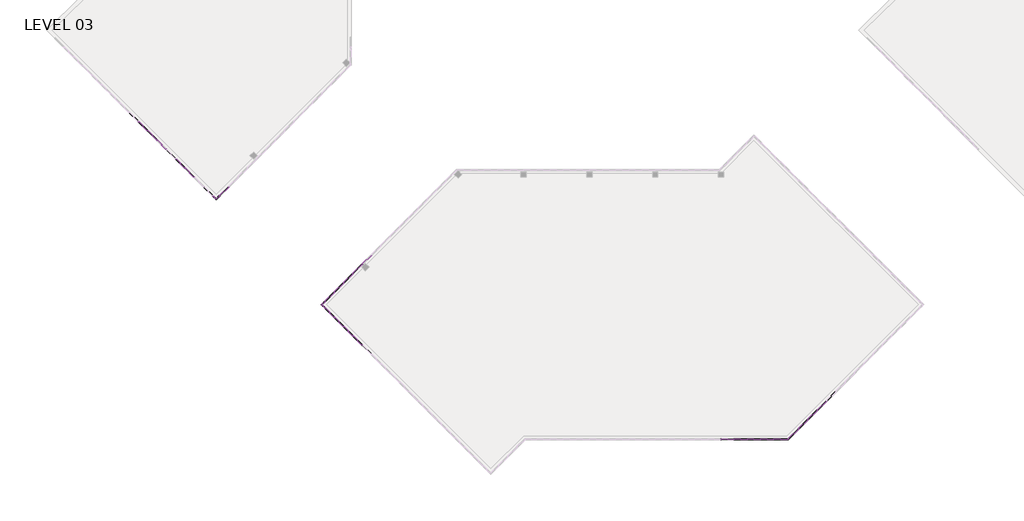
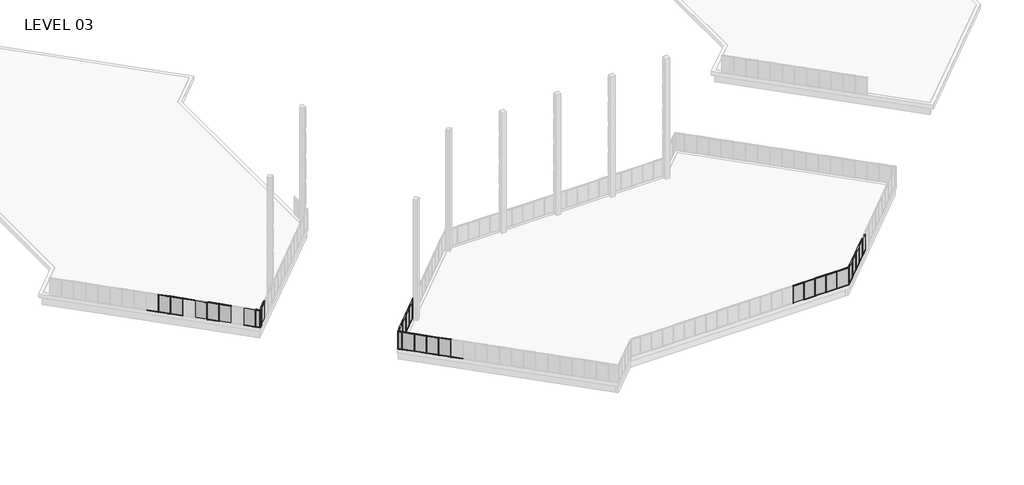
# One storey, part 2 of 18: 86 members, 29 plates.
"""IFC4 building model written with IfcOpenShell, lengths in millimetres."""

from ifc_helpers import new_model, si_unit, origin, place, context, project, spatial, transform, mapped, element, save
from components import member_5247f267, member_e44af9ab, member_800970d4, member_1bd862b2, member_7ca0f77f, member_25b26a38, member_ed9c17d6, plate_67294edd, plate_bbcbcabf, plate_3fb62afd, plate_6d527a83, plate_e0fd5134, plate_62af1d3c, plate_048e4634

model = new_model("IFC4")

# Units and contexts
model_context = context("Model", 3, world=origin())
ifc_project = project(units=[si_unit("LENGTHUNIT", "METRE", prefix="MILLI")], contexts=[model_context])

# Site, building, storey
site = spatial("IfcSite", under=ifc_project)
building = spatial("IfcBuilding", under=site)
storey = spatial("IfcBuildingStorey", under=building, Name="LEVEL 03", Elevation=8280.4)

# Members
placement = place(None, origin())
member_shape = member_5247f267(model_context)
element("IfcMember", 1, ObjectType="Rectangular Mullion : 2\" x 4.5\" rectangular", at=placement, inside=storey, context=model_context, shape_type="MappedRepresentation", body=[
    mapped(member_shape, transform((-1378.4693146, 14091.4196932, 8280.4), x_axis=(0.0, 0.0, -1.0), y_axis=(-0.7071067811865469, 0.7071067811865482, 0.0), z_axis=(0.7071067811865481, 0.7071067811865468, 0.0))),
])
element("IfcMember", 2, ObjectType="Rectangular Mullion : 2\" x 4.5\" rectangular", at=placement, inside=storey, context=model_context, shape_type="MappedRepresentation", body=[
    mapped(member_shape, transform((-2420.1790246, 7938.4057611, 8280.4), x_axis=(0.0, 0.0, -1.0), y_axis=(-0.707106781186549, -0.707106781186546, 0.0), z_axis=(-0.7071067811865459, 0.7071067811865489, 0.0))),
])
element("IfcMember", 3, ObjectType="Rectangular Mullion : 2\" x 4.5\" rectangular", at=placement, inside=storey, context=model_context, shape_type="MappedRepresentation", body=[
    mapped(member_shape, transform((-1342.5482901, 6860.7750266, 8280.4), x_axis=(0.0, 0.0, -1.0), y_axis=(-0.7071067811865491, -0.707106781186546, 0.0), z_axis=(-0.7071067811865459, 0.707106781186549, 0.0))),
])
element("IfcMember", 4, ObjectType="Rectangular Mullion : 2\" x 4.5\" rectangular", at=placement, inside=storey, context=model_context, shape_type="MappedRepresentation", body=[
    mapped(member_shape, transform((44329.35, -5092.0171279, 8280.4), x_axis=(0.0, 0.0, -1.0), y_axis=(0.0, -1.0, 0.0), z_axis=(-1.0, 0.0, 0.0))),
])
element("IfcMember", 5, ObjectType="Rectangular Mullion : 2\" x 4.5\" rectangular", at=placement, inside=storey, context=model_context, shape_type="MappedRepresentation", body=[
    mapped(member_shape, transform((45853.35, -5092.0171279, 8280.4), x_axis=(0.0, 0.0, -1.0), y_axis=(0.0, -1.0, 0.0), z_axis=(-1.0, 0.0, 0.0))),
])
element("IfcMember", 6, ObjectType="Rectangular Mullion : 2\" x 4.5\" rectangular", at=placement, inside=storey, context=model_context, shape_type="MappedRepresentation", body=[
    mapped(member_shape, transform((50254.2406419, -3879.4326216, 8280.4), x_axis=(0.0, 0.0, -1.0), y_axis=(0.707106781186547, -0.7071067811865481, 0.0), z_axis=(-0.7071067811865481, -0.707106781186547, 0.0))),
])
element("IfcMember", 7, ObjectType="Rectangular Mullion : 2\" x 4.5\" rectangular", at=placement, inside=storey, context=model_context, shape_type="MappedRepresentation", body=[
    mapped(member_shape, transform((51331.8713765, -2801.801887, 8280.4), x_axis=(0.0, 0.0, -1.0), y_axis=(0.7071067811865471, -0.7071067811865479, 0.0), z_axis=(-0.7071067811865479, -0.7071067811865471, 0.0))),
])
element("IfcMember", 8, ObjectType="Rectangular Mullion : 2\" x 4.5\" rectangular", at=placement, inside=storey, context=model_context, shape_type="MappedRepresentation", body=[
    mapped(member_shape, transform((52409.502111, -1724.1711525, 8280.4), x_axis=(0.0, 0.0, -1.0), y_axis=(0.7071067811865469, -0.7071067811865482, 0.0), z_axis=(-0.7071067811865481, -0.7071067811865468, 0.0))),
])
element("IfcMember", 9, ObjectType="Rectangular Mullion : 2\" x 4.5\" rectangular", at=placement, inside=storey, context=model_context, shape_type="MappedRepresentation", body=[
    mapped(member_shape, transform((53487.1328455, -646.540418, 8280.4), x_axis=(0.0, 0.0, -1.0), y_axis=(0.707106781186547, -0.7071067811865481, 0.0), z_axis=(-0.707106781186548, -0.7071067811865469, 0.0))),
])
element("IfcMember", 10, ObjectType="Rectangular Mullion : 2\" x 4.5\" rectangular", at=placement, inside=storey, context=model_context, shape_type="MappedRepresentation", body=[
    mapped(member_shape, transform((42805.35, -5092.0171279, 8280.4), x_axis=(0.0, 0.0, -1.0), y_axis=(0.0, -1.0, 0.0), z_axis=(-1.0, 0.0, 0.0))),
])
element("IfcMember", 11, ObjectType="Rectangular Mullion : 2\" x 4.5\" rectangular", at=placement, inside=storey, context=model_context, shape_type="MappedRepresentation", body=[
    mapped(member_shape, transform((-300.8459809, 15169.0430268, 8280.4), x_axis=(0.0, 0.0, -1.0), y_axis=(-0.7071067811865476, 0.7071067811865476, 0.0), z_axis=(0.7071067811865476, 0.7071067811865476, 0.0))),
])
element("IfcMember", 12, ObjectType="Rectangular Mullion : 2\" x 4.5\" rectangular", at=placement, inside=storey, context=model_context, shape_type="MappedRepresentation", body=[
    mapped(member_shape, transform((-2456.1000491, 13013.7889586, 8280.4), x_axis=(0.0, 0.0, -1.0), y_axis=(-0.7071067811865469, 0.7071067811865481, 0.0), z_axis=(0.7071067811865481, 0.7071067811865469, 0.0))),
])
element("IfcMember", 13, ObjectType="Rectangular Mullion : 2\" x 4.5\" rectangular", at=placement, inside=storey, context=model_context, shape_type="MappedRepresentation", body=[
    mapped(member_shape, transform((-3533.7307836, 11936.1582241, 8280.4), x_axis=(0.0, 0.0, -1.0), y_axis=(-0.7071067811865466, 0.7071067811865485, 0.0), z_axis=(0.7071067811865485, 0.7071067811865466, 0.0))),
])
element("IfcMember", 14, ObjectType="Rectangular Mullion : 2\" x 4.5\" rectangular", at=placement, inside=storey, context=model_context, shape_type="MappedRepresentation", body=[
    mapped(member_shape, transform((-3497.8097592, 9016.0364956, 8280.4), x_axis=(0.0, 0.0, -1.0), y_axis=(-0.707106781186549, -0.7071067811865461, 0.0), z_axis=(-0.7071067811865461, 0.707106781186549, 0.0))),
])
element("IfcMember", 15, ObjectType="Rectangular Mullion : 2\" x 4.5\" rectangular", at=placement, inside=storey, context=model_context, shape_type="MappedRepresentation", body=[
    mapped(member_shape, transform((-4575.4404937, 10093.6672302, 8280.4), x_axis=(0.0, 0.0, -1.0), y_axis=(-0.7071067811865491, -0.707106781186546, 0.0), z_axis=(-0.707106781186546, 0.7071067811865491, 0.0))),
])
element("IfcMember", 16, ObjectType="Rectangular Mullion : 2\" x 4.5\" rectangular", at=placement, inside=storey, context=model_context, shape_type="MappedRepresentation", body=[
    mapped(member_shape, transform((-264.9354228, 5783.1621593, 8280.4), x_axis=(0.0, 0.0, -1.0), y_axis=(-0.7071067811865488, -0.7071067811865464, 0.0), z_axis=(-0.7071067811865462, 0.7071067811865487, 0.0))),
])
element("IfcMember", 17, ObjectType="Rectangular Mullion : 2\" x 4.5\" rectangular", at=placement, inside=storey, context=model_context, shape_type="MappedRepresentation", body=[
    mapped(member_shape, transform((-1342.5482901, 14127.3407176, 10871.2), x_axis=(0.0, 0.0, 1.0), y_axis=(-0.707106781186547, 0.7071067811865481, 0.0), z_axis=(-0.707106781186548, -0.7071067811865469, 0.0))),
])
element("IfcMember", 18, ObjectType="Rectangular Mullion : 2\" x 4.5\" rectangular", at=placement, inside=storey, context=model_context, shape_type="MappedRepresentation", body=[
    mapped(member_shape, transform((-2456.1000491, 7974.3267856, 10871.2), x_axis=(0.0, 0.0, 1.0), y_axis=(-0.7071067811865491, -0.7071067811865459, 0.0), z_axis=(0.7071067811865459, -0.7071067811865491, 0.0))),
])
element("IfcMember", 19, ObjectType="Rectangular Mullion : 2\" x 4.5\" rectangular", at=placement, inside=storey, context=model_context, shape_type="MappedRepresentation", body=[
    mapped(member_shape, transform((-1378.4693146, 6896.6960511, 10871.2), x_axis=(0.0, 0.0, 1.0), y_axis=(-0.7071067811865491, -0.7071067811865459, 0.0), z_axis=(0.7071067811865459, -0.7071067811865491, 0.0))),
])
element("IfcMember", 20, ObjectType="Rectangular Mullion : 2\" x 4.5\" rectangular", at=placement, inside=storey, context=model_context, shape_type="MappedRepresentation", body=[
    mapped(member_shape, transform((44278.55, -5092.0171279, 10871.2), x_axis=(0.0, 0.0, 1.0), y_axis=(0.0, -1.0, 0.0), z_axis=(1.0, 0.0, 0.0))),
])
element("IfcMember", 21, ObjectType="Rectangular Mullion : 2\" x 4.5\" rectangular", at=placement, inside=storey, context=model_context, shape_type="MappedRepresentation", body=[
    mapped(member_shape, transform((45802.55, -5092.0171279, 10871.2), x_axis=(0.0, 0.0, 1.0), y_axis=(0.0, -1.0, 0.0), z_axis=(1.0, 0.0, 0.0))),
])
element("IfcMember", 22, ObjectType="Rectangular Mullion : 2\" x 4.5\" rectangular", at=placement, inside=storey, context=model_context, shape_type="MappedRepresentation", body=[
    mapped(member_shape, transform((51295.950352, -2837.7229115, 10871.2), x_axis=(0.0, 0.0, 1.0), y_axis=(0.7071067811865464, -0.7071067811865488, 0.0), z_axis=(0.7071067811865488, 0.7071067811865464, 0.0))),
])
element("IfcMember", 23, ObjectType="Rectangular Mullion : 2\" x 4.5\" rectangular", at=placement, inside=storey, context=model_context, shape_type="MappedRepresentation", body=[
    mapped(member_shape, transform((52373.5810865, -1760.092177, 10871.2), x_axis=(0.0, 0.0, 1.0), y_axis=(0.7071067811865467, -0.7071067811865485, 0.0), z_axis=(0.7071067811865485, 0.7071067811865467, 0.0))),
])
element("IfcMember", 24, ObjectType="Rectangular Mullion : 2\" x 4.5\" rectangular", at=placement, inside=storey, context=model_context, shape_type="MappedRepresentation", body=[
    mapped(member_shape, transform((53451.211821, -682.4614425, 10871.2), x_axis=(0.0, 0.0, 1.0), y_axis=(0.7071067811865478, -0.7071067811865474, 0.0), z_axis=(0.7071067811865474, 0.7071067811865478, 0.0))),
])
element("IfcMember", 25, ObjectType="Rectangular Mullion : 2\" x 4.5\" rectangular", at=placement, inside=storey, context=model_context, shape_type="MappedRepresentation", body=[
    mapped(member_shape, transform((42754.55, -5092.0171279, 10871.2), x_axis=(0.0, 0.0, 1.0), y_axis=(0.0, -1.0, 0.0), z_axis=(1.0, 0.0, 0.0))),
])
element("IfcMember", 26, ObjectType="Rectangular Mullion : 2\" x 4.5\" rectangular", at=placement, inside=storey, context=model_context, shape_type="MappedRepresentation", body=[
    mapped(member_shape, transform((47326.55, -5092.0171279, 10871.2), x_axis=(0.0, 0.0, 1.0), y_axis=(0.0, -1.0, 0.0), z_axis=(1.0, 0.0, 0.0))),
])
element("IfcMember", 27, ObjectType="Rectangular Mullion : 2\" x 4.5\" rectangular", at=placement, inside=storey, context=model_context, shape_type="MappedRepresentation", body=[
    mapped(member_shape, transform((-264.9249564, 15204.9640513, 10871.2), x_axis=(0.0, 0.0, 1.0), y_axis=(-0.7071067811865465, 0.7071067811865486, 0.0), z_axis=(-0.7071067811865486, -0.7071067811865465, 0.0))),
])
element("IfcMember", 28, ObjectType="Rectangular Mullion : 2\" x 4.5\" rectangular", at=placement, inside=storey, context=model_context, shape_type="MappedRepresentation", body=[
    mapped(member_shape, transform((-2420.1790246, 13049.7099831, 10871.2), x_axis=(0.0, 0.0, 1.0), y_axis=(-0.7071067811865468, 0.7071067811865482, 0.0), z_axis=(-0.7071067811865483, -0.7071067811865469, 0.0))),
])
element("IfcMember", 29, ObjectType="Rectangular Mullion : 2\" x 4.5\" rectangular", at=placement, inside=storey, context=model_context, shape_type="MappedRepresentation", body=[
    mapped(member_shape, transform((-3497.8097592, 11972.0792486, 10871.2), x_axis=(0.0, 0.0, 1.0), y_axis=(-0.7071067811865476, 0.7071067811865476, 0.0), z_axis=(-0.7071067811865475, -0.7071067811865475, 0.0))),
])
element("IfcMember", 30, ObjectType="Rectangular Mullion : 2\" x 4.5\" rectangular", at=placement, inside=storey, context=model_context, shape_type="MappedRepresentation", body=[
    mapped(member_shape, transform((-4575.4404937, 10894.4485141, 10871.2), x_axis=(0.0, 0.0, 1.0), y_axis=(-0.7071067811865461, 0.7071067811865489, 0.0), z_axis=(-0.7071067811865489, -0.7071067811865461, 0.0))),
])
element("IfcMember", 31, ObjectType="Rectangular Mullion : 2\" x 4.5\" rectangular", at=placement, inside=storey, context=model_context, shape_type="MappedRepresentation", body=[
    mapped(member_shape, transform((-3533.7307836, 9051.9575201, 10871.2), x_axis=(0.0, 0.0, 1.0), y_axis=(-0.7071067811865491, -0.7071067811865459, 0.0), z_axis=(0.7071067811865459, -0.7071067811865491, 0.0))),
])
element("IfcMember", 32, ObjectType="Rectangular Mullion : 2\" x 4.5\" rectangular", at=placement, inside=storey, context=model_context, shape_type="MappedRepresentation", body=[
    mapped(member_shape, transform((-300.8564473, 5819.0831838, 10871.2), x_axis=(0.0, 0.0, 1.0), y_axis=(-0.7071067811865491, -0.707106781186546, 0.0), z_axis=(0.7071067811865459, -0.707106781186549, 0.0))),
])
member_2_shape = member_e44af9ab(model_context)
element("IfcMember", 33, ObjectType="Rectangular Mullion : 2\" x 4.5\" rectangular", at=placement, inside=storey, context=model_context, shape_type="MappedRepresentation", body=[
    mapped(member_2_shape, transform((-1360.5088023, 14109.3802054, 8280.4), x_axis=(-0.7071067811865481, -0.7071067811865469, 0.0), y_axis=(-0.7071067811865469, 0.7071067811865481, 0.0), z_axis=(0.0, 0.0, -1.0))),
])
element("IfcMember", 34, ObjectType="Rectangular Mullion : 2\" x 4.5\" rectangular", at=placement, inside=storey, context=model_context, shape_type="MappedRepresentation", body=[
    mapped(member_2_shape, transform((-2438.1395369, 7956.3662734, 8280.4), x_axis=(0.7071067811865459, -0.7071067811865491, 0.0), y_axis=(-0.7071067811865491, -0.7071067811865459, 0.0), z_axis=(0.0, 0.0, -1.0))),
])
element("IfcMember", 35, ObjectType="Rectangular Mullion : 2\" x 4.5\" rectangular", at=placement, inside=storey, context=model_context, shape_type="MappedRepresentation", body=[
    mapped(member_2_shape, transform((-1360.5088023, 6878.7355388, 8280.4), x_axis=(0.7071067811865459, -0.7071067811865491, 0.0), y_axis=(-0.7071067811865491, -0.7071067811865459, 0.0), z_axis=(0.0, 0.0, -1.0))),
])
element("IfcMember", 36, ObjectType="Rectangular Mullion : 2\" x 4.5\" rectangular", at=placement, inside=storey, context=model_context, shape_type="MappedRepresentation", body=[
    mapped(member_2_shape, transform((44303.95, -5092.0171279, 8280.4), x_axis=(1.0, 0.0, 0.0), y_axis=(0.0, -1.0, 0.0), z_axis=(0.0, 0.0, -1.0))),
])
element("IfcMember", 37, ObjectType="Rectangular Mullion : 2\" x 4.5\" rectangular", at=placement, inside=storey, context=model_context, shape_type="MappedRepresentation", body=[
    mapped(member_2_shape, transform((45827.95, -5092.0171279, 8280.4), x_axis=(1.0, 0.0, 0.0), y_axis=(0.0, -1.0, 0.0), z_axis=(0.0, 0.0, -1.0))),
])
element("IfcMember", 38, ObjectType="Rectangular Mullion : 2\" x 4.5\" rectangular", at=placement, inside=storey, context=model_context, shape_type="MappedRepresentation", body=[
    mapped(member_2_shape, transform((50236.2801297, -3897.3931338, 8280.4), x_axis=(0.7071067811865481, 0.7071067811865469, 0.0), y_axis=(0.7071067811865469, -0.7071067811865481, 0.0), z_axis=(0.0, 0.0, -1.0))),
])
element("IfcMember", 39, ObjectType="Rectangular Mullion : 2\" x 4.5\" rectangular", at=placement, inside=storey, context=model_context, shape_type="MappedRepresentation", body=[
    mapped(member_2_shape, transform((51313.9108642, -2819.7623993, 8280.4), x_axis=(0.7071067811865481, 0.7071067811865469, 0.0), y_axis=(0.7071067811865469, -0.7071067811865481, 0.0), z_axis=(0.0, 0.0, -1.0))),
])
element("IfcMember", 40, ObjectType="Rectangular Mullion : 2\" x 4.5\" rectangular", at=placement, inside=storey, context=model_context, shape_type="MappedRepresentation", body=[
    mapped(member_2_shape, transform((52391.5415988, -1742.1316648, 8280.4), x_axis=(0.7071067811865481, 0.7071067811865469, 0.0), y_axis=(0.7071067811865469, -0.7071067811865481, 0.0), z_axis=(0.0, 0.0, -1.0))),
])
element("IfcMember", 41, ObjectType="Rectangular Mullion : 2\" x 4.5\" rectangular", at=placement, inside=storey, context=model_context, shape_type="MappedRepresentation", body=[
    mapped(member_2_shape, transform((53469.1723333, -664.5009302, 8280.4), x_axis=(0.7071067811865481, 0.7071067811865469, 0.0), y_axis=(0.7071067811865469, -0.7071067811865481, 0.0), z_axis=(0.0, 0.0, -1.0))),
])
element("IfcMember", 42, ObjectType="Rectangular Mullion : 2\" x 4.5\" rectangular", at=placement, inside=storey, context=model_context, shape_type="MappedRepresentation", body=[
    mapped(member_2_shape, transform((41255.95, -5092.0171279, 8280.4), x_axis=(1.0, 0.0, 0.0), y_axis=(0.0, -1.0, 0.0), z_axis=(0.0, 0.0, -1.0))),
])
element("IfcMember", 43, ObjectType="Rectangular Mullion : 2\" x 4.5\" rectangular", at=placement, inside=storey, context=model_context, shape_type="MappedRepresentation", body=[
    mapped(member_2_shape, transform((42779.95, -5092.0171279, 8280.4), x_axis=(1.0, 0.0, 0.0), y_axis=(0.0, -1.0, 0.0), z_axis=(0.0, 0.0, -1.0))),
])
element("IfcMember", 44, ObjectType="Rectangular Mullion : 2\" x 4.5\" rectangular", at=placement, inside=storey, context=model_context, shape_type="MappedRepresentation", body=[
    mapped(member_2_shape, transform((47351.95, -5092.0171279, 8280.4), x_axis=(1.0, 0.0, 0.0), y_axis=(0.0, -1.0, 0.0), z_axis=(0.0, 0.0, -1.0))),
])
element("IfcMember", 45, ObjectType="Rectangular Mullion : 2\" x 4.5\" rectangular", at=placement, inside=storey, context=model_context, shape_type="MappedRepresentation", body=[
    mapped(member_2_shape, transform((-282.8854687, 15187.0035391, 8280.4), x_axis=(-0.7071067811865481, -0.7071067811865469, 0.0), y_axis=(-0.7071067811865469, 0.7071067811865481, 0.0), z_axis=(0.0, 0.0, -1.0))),
])
element("IfcMember", 46, ObjectType="Rectangular Mullion : 2\" x 4.5\" rectangular", at=placement, inside=storey, context=model_context, shape_type="MappedRepresentation", body=[
    mapped(member_2_shape, transform((-2438.1395369, 13031.7494709, 8280.4), x_axis=(-0.7071067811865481, -0.7071067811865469, 0.0), y_axis=(-0.7071067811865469, 0.7071067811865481, 0.0), z_axis=(0.0, 0.0, -1.0))),
])
element("IfcMember", 47, ObjectType="Rectangular Mullion : 2\" x 4.5\" rectangular", at=placement, inside=storey, context=model_context, shape_type="MappedRepresentation", body=[
    mapped(member_2_shape, transform((-3515.7702714, 11954.1187363, 8280.4), x_axis=(-0.7071067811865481, -0.7071067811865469, 0.0), y_axis=(-0.7071067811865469, 0.7071067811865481, 0.0), z_axis=(0.0, 0.0, -1.0))),
])
element("IfcMember", 48, ObjectType="Rectangular Mullion : 2\" x 4.5\" rectangular", at=placement, inside=storey, context=model_context, shape_type="MappedRepresentation", body=[
    mapped(member_2_shape, transform((-4593.4010059, 10876.4880018, 8280.4), x_axis=(-0.7071067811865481, -0.7071067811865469, 0.0), y_axis=(-0.7071067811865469, 0.7071067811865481, 0.0), z_axis=(0.0, 0.0, -1.0))),
])
element("IfcMember", 49, ObjectType="Rectangular Mullion : 2\" x 4.5\" rectangular", at=placement, inside=storey, context=model_context, shape_type="MappedRepresentation", body=[
    mapped(member_2_shape, transform((-3515.7702714, 9033.9970079, 8280.4), x_axis=(0.7071067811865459, -0.7071067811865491, 0.0), y_axis=(-0.7071067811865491, -0.7071067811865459, 0.0), z_axis=(0.0, 0.0, -1.0))),
])
element("IfcMember", 50, ObjectType="Rectangular Mullion : 2\" x 4.5\" rectangular", at=placement, inside=storey, context=model_context, shape_type="MappedRepresentation", body=[
    mapped(member_2_shape, transform((-4593.4010059, 10111.6277424, 8280.4), x_axis=(0.7071067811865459, -0.7071067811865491, 0.0), y_axis=(-0.7071067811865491, -0.7071067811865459, 0.0), z_axis=(0.0, 0.0, -1.0))),
])
element("IfcMember", 51, ObjectType="Rectangular Mullion : 2\" x 4.5\" rectangular", at=placement, inside=storey, context=model_context, shape_type="MappedRepresentation", body=[
    mapped(member_2_shape, transform((-282.8959351, 5801.1226716, 8280.4), x_axis=(0.7071067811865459, -0.7071067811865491, 0.0), y_axis=(-0.7071067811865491, -0.7071067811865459, 0.0), z_axis=(0.0, 0.0, -1.0))),
])
member_3_shape = member_800970d4(model_context)
element("IfcMember", 52, ObjectType="Rectangular Mullion : 2\" x 4.5\" rectangular", at=placement, inside=storey, context=model_context, shape_type="MappedRepresentation", body=[
    mapped(member_3_shape, transform((-4975.8311356, 10494.0578721, 8280.4), x_axis=(-0.7071067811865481, -0.7071067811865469, 0.0), y_axis=(-0.7071067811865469, 0.7071067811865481, 0.0), z_axis=(0.0, 0.0, -1.0))),
])
element("IfcMember", 53, ObjectType="Rectangular Mullion : 2\" x 4.5\" rectangular", at=placement, inside=storey, context=model_context, shape_type="MappedRepresentation", body=[
    mapped(member_3_shape, transform((49041.6561356, -5092.0171279, 8280.4), x_axis=(1.0, 0.0, 0.0), y_axis=(0.0, -1.0, 0.0), z_axis=(0.0, 0.0, -1.0))),
])
element("IfcMember", 54, ObjectType="Rectangular Mullion : 2\" x 4.5\" rectangular", at=placement, inside=storey, context=model_context, shape_type="MappedRepresentation", body=[
    mapped(member_3_shape, transform((-4975.8311356, 10494.0578721, 10871.2), x_axis=(-0.7071067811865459, 0.7071067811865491, 0.0), y_axis=(-0.7071067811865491, -0.7071067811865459, 0.0), z_axis=(0.0, 0.0, 1.0))),
])
element("IfcMember", 55, ObjectType="Rectangular Mullion : 2\" x 4.5\" rectangular", at=placement, inside=storey, context=model_context, shape_type="MappedRepresentation", body=[
    mapped(member_3_shape, transform((49041.6561356, -5092.0171279, 10871.2), x_axis=(-0.7071067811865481, -0.7071067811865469, 0.0), y_axis=(0.7071067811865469, -0.7071067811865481, 0.0), z_axis=(0.0, 0.0, 1.0))),
])
member_4_shape = member_1bd862b2(model_context)
element("IfcMember", 56, ObjectType="Rectangular Mullion : 2\" x 4.5\" rectangular", at=placement, inside=storey, context=model_context, shape_type="MappedRepresentation", body=[
    mapped(member_4_shape, transform((48990.8561356, -5092.0171279, 10871.2), x_axis=(0.0, 0.0, 1.0), y_axis=(0.0, -1.0, 0.0), z_axis=(1.0, 0.0, 0.0))),
])
element("IfcMember", 57, ObjectType="Rectangular Mullion : 2\" x 4.5\" rectangular", at=placement, inside=storey, context=model_context, shape_type="MappedRepresentation", body=[
    mapped(member_4_shape, transform((47377.35, -5092.0171279, 8280.4), x_axis=(0.0, 0.0, -1.0), y_axis=(0.0, -1.0, 0.0), z_axis=(-1.0, 0.0, 0.0))),
])
member_5_shape = member_7ca0f77f(model_context)
element("IfcMember", 58, ObjectType="Rectangular Mullion : 2\" x 4.5\" rectangular", at=placement, inside=storey, context=model_context, shape_type="MappedRepresentation", body=[
    mapped(member_5_shape, transform((50218.3196175, -3915.3536461, 10871.2), x_axis=(0.0, 0.0, 1.0), y_axis=(0.7071067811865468, -0.7071067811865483, 0.0), z_axis=(0.7071067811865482, 0.7071067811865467, 0.0))),
])
element("IfcMember", 59, ObjectType="Rectangular Mullion : 2\" x 4.5\" rectangular", at=placement, inside=storey, context=model_context, shape_type="MappedRepresentation", body=[
    mapped(member_5_shape, transform((49077.5771601, -5056.0961034, 8280.4), x_axis=(0.0, 0.0, -1.0), y_axis=(0.7071067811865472, -0.7071067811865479, 0.0), z_axis=(-0.7071067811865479, -0.7071067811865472, 0.0))),
])
member_6_shape = member_25b26a38(model_context)
element("IfcMember", 60, ObjectType="Rectangular Mullion : 2\" x 4.5\" rectangular", at=placement, inside=storey, context=model_context, shape_type="MappedRepresentation", body=[
    mapped(member_6_shape, transform((-4939.9101111, 10458.1368476, 8280.4), x_axis=(0.0, 0.0, -1.0), y_axis=(-0.7071067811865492, -0.7071067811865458, 0.0), z_axis=(-0.7071067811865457, 0.7071067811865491, 0.0))),
])
element("IfcMember", 61, ObjectType="Rectangular Mullion : 2\" x 4.5\" rectangular", at=placement, inside=storey, context=model_context, shape_type="MappedRepresentation", body=[
    mapped(member_6_shape, transform((-4611.3615182, 10858.5274896, 8280.4), x_axis=(0.0, 0.0, -1.0), y_axis=(-0.7071067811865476, 0.7071067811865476, 0.0), z_axis=(0.7071067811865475, 0.7071067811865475, 0.0))),
])
element("IfcMember", 62, ObjectType="Rectangular Mullion : 2\" x 4.5\" rectangular", at=placement, inside=storey, context=model_context, shape_type="MappedRepresentation", body=[
    mapped(member_6_shape, transform((-4939.9101111, 10529.9788966, 10871.2), x_axis=(0.0, 0.0, 1.0), y_axis=(-0.707106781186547, 0.707106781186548, 0.0), z_axis=(-0.707106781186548, -0.707106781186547, 0.0))),
])
element("IfcMember", 63, ObjectType="Rectangular Mullion : 2\" x 4.5\" rectangular", at=placement, inside=storey, context=model_context, shape_type="MappedRepresentation", body=[
    mapped(member_6_shape, transform((-4611.3615182, 10129.5882547, 10871.2), x_axis=(0.0, 0.0, 1.0), y_axis=(-0.707106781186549, -0.707106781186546, 0.0), z_axis=(0.707106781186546, -0.707106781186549, 0.0))),
])
element("IfcMember", 64, ObjectType="Rectangular Mullion : 2\" x 4.5\" rectangular", at=placement, inside=storey, context=model_context, shape_type="MappedRepresentation", body=[
    mapped(member_shape, transform((-20795.3215374, 26313.5482739, 10871.2), x_axis=(0.0, 0.0, 1.0), y_axis=(0.7071067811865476, 0.7071067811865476, 0.0), z_axis=(-0.7071067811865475, 0.7071067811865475, 0.0))),
])
element("IfcMember", 65, ObjectType="Rectangular Mullion : 2\" x 4.5\" rectangular", at=placement, inside=storey, context=model_context, shape_type="MappedRepresentation", body=[
    mapped(member_shape, transform((-24028.142272, 29546.3690085, 10871.2), x_axis=(0.0, 0.0, 1.0), y_axis=(0.7071067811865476, 0.7071067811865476, 0.0), z_axis=(-0.7071067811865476, 0.7071067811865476, 0.0))),
])
element("IfcMember", 66, ObjectType="Rectangular Mullion : 2\" x 4.5\" rectangular", at=placement, inside=storey, context=model_context, shape_type="MappedRepresentation", body=[
    mapped(member_shape, transform((-25105.737272, 30623.9640085, 10871.2), x_axis=(0.0, 0.0, 1.0), y_axis=(0.7071067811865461, 0.707106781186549, 0.0), z_axis=(-0.707106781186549, 0.7071067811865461, 0.0))),
])
element("IfcMember", 67, ObjectType="Rectangular Mullion : 2\" x 4.5\" rectangular", at=placement, inside=storey, context=model_context, shape_type="MappedRepresentation", body=[
    mapped(member_shape, transform((-26183.332272, 31701.5590085, 10871.2), x_axis=(0.0, 0.0, 1.0), y_axis=(0.7071067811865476, 0.7071067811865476, 0.0), z_axis=(-0.7071067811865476, 0.7071067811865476, 0.0))),
])
element("IfcMember", 68, ObjectType="Rectangular Mullion : 2\" x 4.5\" rectangular", at=placement, inside=storey, context=model_context, shape_type="MappedRepresentation", body=[
    mapped(member_shape, transform((-16797.5690745, 23116.5770948, 10871.2), x_axis=(0.0, 0.0, 1.0), y_axis=(-0.7071067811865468, 0.7071067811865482, 0.0), z_axis=(-0.7071067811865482, -0.7071067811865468, 0.0))),
])
element("IfcMember", 69, ObjectType="Rectangular Mullion : 2\" x 4.5\" rectangular", at=placement, inside=storey, context=model_context, shape_type="MappedRepresentation", body=[
    mapped(member_shape, transform((-21872.9344047, 27391.1611412, 10871.2), x_axis=(0.0, 0.0, 1.0), y_axis=(0.7071067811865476, 0.7071067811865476, 0.0), z_axis=(-0.7071067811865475, 0.7071067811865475, 0.0))),
])
element("IfcMember", 70, ObjectType="Rectangular Mullion : 2\" x 4.5\" rectangular", at=placement, inside=storey, context=model_context, shape_type="MappedRepresentation", body=[
    mapped(member_shape, transform((-20831.2425619, 26349.4692984, 8280.4), x_axis=(0.0, 0.0, -1.0), y_axis=(0.7071067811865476, 0.7071067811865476, 0.0), z_axis=(0.7071067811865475, -0.7071067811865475, 0.0))),
])
element("IfcMember", 71, ObjectType="Rectangular Mullion : 2\" x 4.5\" rectangular", at=placement, inside=storey, context=model_context, shape_type="MappedRepresentation", body=[
    mapped(member_shape, transform((-24064.0632965, 29582.2900329, 8280.4), x_axis=(0.0, 0.0, -1.0), y_axis=(0.7071067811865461, 0.707106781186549, 0.0), z_axis=(0.707106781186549, -0.7071067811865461, 0.0))),
])
element("IfcMember", 72, ObjectType="Rectangular Mullion : 2\" x 4.5\" rectangular", at=placement, inside=storey, context=model_context, shape_type="MappedRepresentation", body=[
    mapped(member_shape, transform((-25141.6582965, 30659.8850329, 8280.4), x_axis=(0.0, 0.0, -1.0), y_axis=(0.7071067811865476, 0.7071067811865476, 0.0), z_axis=(0.7071067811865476, -0.7071067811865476, 0.0))),
])
element("IfcMember", 73, ObjectType="Rectangular Mullion : 2\" x 4.5\" rectangular", at=placement, inside=storey, context=model_context, shape_type="MappedRepresentation", body=[
    mapped(member_shape, transform((-17598.3503583, 23116.5770948, 8280.4), x_axis=(0.0, 0.0, -1.0), y_axis=(0.7071067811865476, 0.7071067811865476, 0.0), z_axis=(0.7071067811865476, -0.7071067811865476, 0.0))),
])
element("IfcMember", 74, ObjectType="Rectangular Mullion : 2\" x 4.5\" rectangular", at=placement, inside=storey, context=model_context, shape_type="MappedRepresentation", body=[
    mapped(member_2_shape, transform((-20813.2820497, 26331.5087862, 8280.4), x_axis=(-0.7071067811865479, 0.7071067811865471, 0.0), y_axis=(0.7071067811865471, 0.7071067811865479, 0.0), z_axis=(0.0, 0.0, -1.0))),
])
element("IfcMember", 75, ObjectType="Rectangular Mullion : 2\" x 4.5\" rectangular", at=placement, inside=storey, context=model_context, shape_type="MappedRepresentation", body=[
    mapped(member_2_shape, transform((-24046.1027842, 29564.3295207, 8280.4), x_axis=(-0.7071067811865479, 0.7071067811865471, 0.0), y_axis=(0.7071067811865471, 0.7071067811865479, 0.0), z_axis=(0.0, 0.0, -1.0))),
])
element("IfcMember", 76, ObjectType="Rectangular Mullion : 2\" x 4.5\" rectangular", at=placement, inside=storey, context=model_context, shape_type="MappedRepresentation", body=[
    mapped(member_2_shape, transform((-25123.6977842, 30641.9245207, 8280.4), x_axis=(-0.7071067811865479, 0.7071067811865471, 0.0), y_axis=(0.7071067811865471, 0.7071067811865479, 0.0), z_axis=(0.0, 0.0, -1.0))),
])
element("IfcMember", 77, ObjectType="Rectangular Mullion : 2\" x 4.5\" rectangular", at=placement, inside=storey, context=model_context, shape_type="MappedRepresentation", body=[
    mapped(member_2_shape, transform((-26201.2927842, 31719.5195207, 8280.4), x_axis=(-0.7071067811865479, 0.7071067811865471, 0.0), y_axis=(0.7071067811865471, 0.7071067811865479, 0.0), z_axis=(0.0, 0.0, -1.0))),
])
element("IfcMember", 78, ObjectType="Rectangular Mullion : 2\" x 4.5\" rectangular", at=placement, inside=storey, context=model_context, shape_type="MappedRepresentation", body=[
    mapped(member_2_shape, transform((-16815.5295867, 23098.6165826, 8280.4), x_axis=(-0.7071067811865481, -0.7071067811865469, 0.0), y_axis=(-0.7071067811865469, 0.7071067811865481, 0.0), z_axis=(0.0, 0.0, -1.0))),
])
element("IfcMember", 79, ObjectType="Rectangular Mullion : 2\" x 4.5\" rectangular", at=placement, inside=storey, context=model_context, shape_type="MappedRepresentation", body=[
    mapped(member_2_shape, transform((-17580.3898461, 23098.6165826, 8280.4), x_axis=(-0.7071067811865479, 0.7071067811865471, 0.0), y_axis=(0.7071067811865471, 0.7071067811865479, 0.0), z_axis=(0.0, 0.0, -1.0))),
])
element("IfcMember", 80, ObjectType="Rectangular Mullion : 2\" x 4.5\" rectangular", at=placement, inside=storey, context=model_context, shape_type="MappedRepresentation", body=[
    mapped(member_3_shape, transform((-17197.9597164, 22716.1864529, 8280.4), x_axis=(-0.7071067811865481, -0.7071067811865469, 0.0), y_axis=(-0.7071067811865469, 0.7071067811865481, 0.0), z_axis=(0.0, 0.0, -1.0))),
])
element("IfcMember", 81, ObjectType="Rectangular Mullion : 2\" x 4.5\" rectangular", at=placement, inside=storey, context=model_context, shape_type="MappedRepresentation", body=[
    mapped(member_3_shape, transform((-17197.9597164, 22716.1864529, 10871.2), x_axis=(0.7071067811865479, -0.7071067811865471, 0.0), y_axis=(0.7071067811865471, 0.7071067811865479, 0.0), z_axis=(0.0, 0.0, 1.0))),
])
element("IfcMember", 82, ObjectType="Rectangular Mullion : 2\" x 4.5\" rectangular", at=placement, inside=storey, context=model_context, shape_type="MappedRepresentation", body=[
    mapped(member_6_shape, transform((-17162.0386919, 22752.1074774, 10871.2), x_axis=(0.0, 0.0, 1.0), y_axis=(-0.7071067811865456, 0.7071067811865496, 0.0), z_axis=(-0.7071067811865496, -0.7071067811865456, 0.0))),
])
element("IfcMember", 83, ObjectType="Rectangular Mullion : 2\" x 4.5\" rectangular", at=placement, inside=storey, context=model_context, shape_type="MappedRepresentation", body=[
    mapped(member_6_shape, transform((-17562.4293339, 23080.6560704, 10871.2), x_axis=(0.0, 0.0, 1.0), y_axis=(0.7071067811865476, 0.7071067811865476, 0.0), z_axis=(-0.7071067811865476, 0.7071067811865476, 0.0))),
])
element("IfcMember", 84, ObjectType="Rectangular Mullion : 2\" x 4.5\" rectangular", at=placement, inside=storey, context=model_context, shape_type="MappedRepresentation", body=[
    mapped(member_6_shape, transform((-17233.8807409, 22752.1074774, 8280.4), x_axis=(0.0, 0.0, -1.0), y_axis=(0.7071067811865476, 0.7071067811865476, 0.0), z_axis=(0.7071067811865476, -0.7071067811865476, 0.0))),
])
element("IfcMember", 85, ObjectType="Rectangular Mullion : 2\" x 4.5\" rectangular", at=placement, inside=storey, context=model_context, shape_type="MappedRepresentation", body=[
    mapped(member_6_shape, transform((-16833.4900989, 23080.6560704, 8280.4), x_axis=(0.0, 0.0, -1.0), y_axis=(-0.7071067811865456, 0.7071067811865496, 0.0), z_axis=(0.7071067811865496, 0.7071067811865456, 0.0))),
])
member_7_shape = member_ed9c17d6(model_context)
element("IfcMember", 86, ObjectType="Rectangular Mullion : 2\" x 4.5\" rectangular", at=placement, inside=storey, context=model_context, shape_type="MappedRepresentation", body=[
    mapped(member_7_shape, transform((-26219.2532965, 31737.4800329, 8280.4), x_axis=(0.0, 0.0, -1.0), y_axis=(0.7071067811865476, 0.7071067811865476, 0.0), z_axis=(0.7071067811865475, -0.7071067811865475, 0.0))),
])

# Plates
plate_shape = plate_67294edd(model_context)
element("IfcPlate", 87, ObjectType="System Panel : 1/4\" Glass", at=placement, inside=storey, context=model_context, shape_type="MappedRepresentation", body=[
    mapped(plate_shape, transform((-1899.3241696, 13570.5648381, 8331.2), x_axis=(-0.7071067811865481, -0.7071067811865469, 0.0), y_axis=(0.7071067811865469, -0.7071067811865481, 0.0), z_axis=(0.0, 0.0, 1.0))),
])
element("IfcPlate", 88, ObjectType="System Panel : 1/4\" Glass", at=placement, inside=storey, context=model_context, shape_type="MappedRepresentation", body=[
    mapped(plate_shape, transform((-1899.3241696, 7417.5509061, 8331.2), x_axis=(0.7071067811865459, -0.7071067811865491, 0.0), y_axis=(0.7071067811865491, 0.7071067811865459, 0.0), z_axis=(0.0, 0.0, 1.0))),
])
element("IfcPlate", 89, ObjectType="System Panel : 1/4\" Glass", at=placement, inside=storey, context=model_context, shape_type="MappedRepresentation", body=[
    mapped(plate_shape, transform((45065.95, -5092.0171279, 8331.2), x_axis=(1.0, 0.0, 0.0), y_axis=(0.0, 1.0, 0.0), z_axis=(0.0, 0.0, 1.0))),
])
element("IfcPlate", 90, ObjectType="System Panel : 1/4\" Glass", at=placement, inside=storey, context=model_context, shape_type="MappedRepresentation", body=[
    mapped(plate_shape, transform((46589.95, -5092.0171279, 8331.2), x_axis=(1.0, 0.0, 0.0), y_axis=(0.0, 1.0, 0.0), z_axis=(0.0, 0.0, 1.0))),
])
element("IfcPlate", 91, ObjectType="System Panel : 1/4\" Glass", at=placement, inside=storey, context=model_context, shape_type="MappedRepresentation", body=[
    mapped(plate_shape, transform((50775.095497, -3358.5777665, 8331.2), x_axis=(0.7071067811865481, 0.7071067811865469, 0.0), y_axis=(-0.7071067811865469, 0.7071067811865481, 0.0), z_axis=(0.0, 0.0, 1.0))),
])
element("IfcPlate", 92, ObjectType="System Panel : 1/4\" Glass", at=placement, inside=storey, context=model_context, shape_type="MappedRepresentation", body=[
    mapped(plate_shape, transform((51852.7262315, -2280.947032, 8331.2), x_axis=(0.7071067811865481, 0.7071067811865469, 0.0), y_axis=(-0.7071067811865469, 0.7071067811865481, 0.0), z_axis=(0.0, 0.0, 1.0))),
])
element("IfcPlate", 93, ObjectType="System Panel : 1/4\" Glass", at=placement, inside=storey, context=model_context, shape_type="MappedRepresentation", body=[
    mapped(plate_shape, transform((52930.356966, -1203.3162975, 8331.2), x_axis=(0.7071067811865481, 0.7071067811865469, 0.0), y_axis=(-0.7071067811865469, 0.7071067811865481, 0.0), z_axis=(0.0, 0.0, 1.0))),
])
element("IfcPlate", 94, ObjectType="System Panel : 1/4\" Glass", at=placement, inside=storey, context=model_context, shape_type="MappedRepresentation", body=[
    mapped(plate_shape, transform((54007.9877005, -125.685563, 8331.2), x_axis=(0.7071067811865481, 0.7071067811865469, 0.0), y_axis=(-0.7071067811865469, 0.7071067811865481, 0.0), z_axis=(0.0, 0.0, 1.0))),
])
element("IfcPlate", 95, ObjectType="System Panel : 1/4\" Glass", at=placement, inside=storey, context=model_context, shape_type="MappedRepresentation", body=[
    mapped(plate_shape, transform((42017.95, -5092.0171279, 8331.2), x_axis=(1.0, 0.0, 0.0), y_axis=(0.0, 1.0, 0.0), z_axis=(0.0, 0.0, 1.0))),
])
element("IfcPlate", 96, ObjectType="System Panel : 1/4\" Glass", at=placement, inside=storey, context=model_context, shape_type="MappedRepresentation", body=[
    mapped(plate_shape, transform((43541.95, -5092.0171279, 8331.2), x_axis=(1.0, 0.0, 0.0), y_axis=(0.0, 1.0, 0.0), z_axis=(0.0, 0.0, 1.0))),
])
element("IfcPlate", 97, ObjectType="System Panel : 1/4\" Glass", at=placement, inside=storey, context=model_context, shape_type="MappedRepresentation", body=[
    mapped(plate_shape, transform((-2976.9549041, 12492.9341036, 8331.2), x_axis=(-0.7071067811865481, -0.7071067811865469, 0.0), y_axis=(0.7071067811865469, -0.7071067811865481, 0.0), z_axis=(0.0, 0.0, 1.0))),
])
element("IfcPlate", 98, ObjectType="System Panel : 1/4\" Glass", at=placement, inside=storey, context=model_context, shape_type="MappedRepresentation", body=[
    mapped(plate_shape, transform((-4054.5856387, 11415.3033691, 8331.2), x_axis=(-0.7071067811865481, -0.7071067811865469, 0.0), y_axis=(0.7071067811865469, -0.7071067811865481, 0.0), z_axis=(0.0, 0.0, 1.0))),
])
element("IfcPlate", 99, ObjectType="System Panel : 1/4\" Glass", at=placement, inside=storey, context=model_context, shape_type="MappedRepresentation", body=[
    mapped(plate_shape, transform((-2976.9549041, 8495.1816406, 8331.2), x_axis=(0.7071067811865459, -0.7071067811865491, 0.0), y_axis=(0.7071067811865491, 0.7071067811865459, 0.0), z_axis=(0.0, 0.0, 1.0))),
])
element("IfcPlate", 100, ObjectType="System Panel : 1/4\" Glass", at=placement, inside=storey, context=model_context, shape_type="MappedRepresentation", body=[
    mapped(plate_shape, transform((-4054.5856387, 9572.8123752, 8331.2), x_axis=(0.7071067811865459, -0.7071067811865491, 0.0), y_axis=(0.7071067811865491, 0.7071067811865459, 0.0), z_axis=(0.0, 0.0, 1.0))),
])
plate_2_shape = plate_bbcbcabf(model_context)
element("IfcPlate", 101, ObjectType="System Panel : 1/4\" Glass", at=placement, inside=storey, context=model_context, shape_type="MappedRepresentation", body=[
    mapped(plate_2_shape, transform((48184.1030678, -5092.0171279, 8331.2), x_axis=(1.0, 0.0, 0.0), y_axis=(0.0, 1.0, 0.0), z_axis=(0.0, 0.0, 1.0))),
])
plate_3_shape = plate_3fb62afd(model_context)
element("IfcPlate", 102, ObjectType="System Panel : 1/4\" Glass", at=placement, inside=storey, context=model_context, shape_type="MappedRepresentation", body=[
    mapped(plate_3_shape, transform((49647.9483888, -4485.7248747, 8331.2), x_axis=(0.7071067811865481, 0.7071067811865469, 0.0), y_axis=(-0.7071067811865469, 0.7071067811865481, 0.0), z_axis=(0.0, 0.0, 1.0))),
])
plate_4_shape = plate_6d527a83(model_context)
element("IfcPlate", 103, ObjectType="System Panel : 1/4\" Glass", at=placement, inside=storey, context=model_context, shape_type="MappedRepresentation", body=[
    mapped(plate_4_shape, transform((-4775.6358147, 10293.8625511, 8331.2), x_axis=(0.7071067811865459, -0.7071067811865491, 0.0), y_axis=(0.7071067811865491, 0.7071067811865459, 0.0), z_axis=(0.0, 0.0, 1.0))),
])
element("IfcPlate", 104, ObjectType="System Panel : 1/4\" Glass", at=placement, inside=storey, context=model_context, shape_type="MappedRepresentation", body=[
    mapped(plate_4_shape, transform((-4775.6358147, 10694.2531931, 8331.2), x_axis=(-0.7071067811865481, -0.7071067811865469, 0.0), y_axis=(0.7071067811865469, -0.7071067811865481, 0.0), z_axis=(0.0, 0.0, 1.0))),
])
plate_5_shape = plate_e0fd5134(model_context)
element("IfcPlate", 105, ObjectType="System Panel : 1/4\" Glass", at=placement, inside=storey, context=model_context, shape_type="MappedRepresentation", body=[
    mapped(plate_5_shape, transform((-821.6971355, 14648.1918722, 8331.2), x_axis=(-0.7071067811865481, -0.7071067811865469, 0.0), y_axis=(0.7071067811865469, -0.7071067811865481, 0.0), z_axis=(0.0, 0.0, 1.0))),
])
plate_6_shape = plate_62af1d3c(model_context)
element("IfcPlate", 106, ObjectType="System Panel : 1/4\" Glass", at=placement, inside=storey, context=model_context, shape_type="MappedRepresentation", body=[
    mapped(plate_6_shape, transform((-821.7023687, 6339.9291052, 8331.2), x_axis=(0.7071067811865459, -0.7071067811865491, 0.0), y_axis=(0.7071067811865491, 0.7071067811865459, 0.0), z_axis=(0.0, 0.0, 1.0))),
])
element("IfcPlate", 107, ObjectType="System Panel : 1/4\" Glass", at=placement, inside=storey, context=model_context, shape_type="MappedRepresentation", body=[
    mapped(plate_shape, transform((-20274.4666824, 25792.6934189, 8331.2), x_axis=(-0.7071067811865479, 0.7071067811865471, 0.0), y_axis=(-0.7071067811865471, -0.7071067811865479, 0.0), z_axis=(0.0, 0.0, 1.0))),
])
element("IfcPlate", 108, ObjectType="System Panel : 1/4\" Glass", at=placement, inside=storey, context=model_context, shape_type="MappedRepresentation", body=[
    mapped(plate_shape, transform((-16276.7142194, 23637.4319499, 8331.2), x_axis=(-0.7071067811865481, -0.7071067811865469, 0.0), y_axis=(0.7071067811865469, -0.7071067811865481, 0.0), z_axis=(0.0, 0.0, 1.0))),
])
element("IfcPlate", 109, ObjectType="System Panel : 1/4\" Glass", at=placement, inside=storey, context=model_context, shape_type="MappedRepresentation", body=[
    mapped(plate_shape, transform((-18119.2052134, 23637.4319499, 8331.2), x_axis=(-0.7071067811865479, 0.7071067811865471, 0.0), y_axis=(-0.7071067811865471, -0.7071067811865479, 0.0), z_axis=(0.0, 0.0, 1.0))),
])
plate_7_shape = plate_048e4634(model_context)
element("IfcPlate", 110, ObjectType="System Panel : 1/4\" Glass", at=placement, inside=storey, context=model_context, shape_type="MappedRepresentation", body=[
    mapped(plate_7_shape, transform((-24584.9002842, 30103.1270207, 8331.2), x_axis=(-0.7071067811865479, 0.7071067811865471, 0.0), y_axis=(-0.7071067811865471, -0.7071067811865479, 0.0), z_axis=(0.0, 0.0, 1.0))),
])
element("IfcPlate", 111, ObjectType="System Panel : 1/4\" Glass", at=placement, inside=storey, context=model_context, shape_type="MappedRepresentation", body=[
    mapped(plate_7_shape, transform((-25662.4952842, 31180.7220207, 8331.2), x_axis=(-0.7071067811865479, 0.7071067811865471, 0.0), y_axis=(-0.7071067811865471, -0.7071067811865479, 0.0), z_axis=(0.0, 0.0, 1.0))),
])
element("IfcPlate", 112, ObjectType="System Panel : 1/4\" Glass", at=placement, inside=storey, context=model_context, shape_type="MappedRepresentation", body=[
    mapped(plate_4_shape, transform((-17398.1550374, 22916.3817739, 8331.2), x_axis=(-0.7071067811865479, 0.7071067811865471, 0.0), y_axis=(-0.7071067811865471, -0.7071067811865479, 0.0), z_axis=(0.0, 0.0, 1.0))),
])
element("IfcPlate", 113, ObjectType="System Panel : 1/4\" Glass", at=placement, inside=storey, context=model_context, shape_type="MappedRepresentation", body=[
    mapped(plate_4_shape, transform((-16997.7643954, 22916.3817739, 8331.2), x_axis=(-0.7071067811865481, -0.7071067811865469, 0.0), y_axis=(0.7071067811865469, -0.7071067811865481, 0.0), z_axis=(0.0, 0.0, 1.0))),
])
element("IfcPlate", 114, ObjectType="System Panel : 1/4\" Glass", at=placement, inside=storey, context=model_context, shape_type="MappedRepresentation", body=[
    mapped(plate_6_shape, transform((-21352.0884833, 26870.3152198, 8331.2), x_axis=(-0.7071067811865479, 0.7071067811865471, 0.0), y_axis=(-0.7071067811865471, -0.7071067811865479, 0.0), z_axis=(0.0, 0.0, 1.0))),
])
element("IfcPlate", 115, ObjectType="System Panel : 1/4\" Glass", at=placement, inside=storey, context=model_context, shape_type="MappedRepresentation", body=[
    mapped(plate_6_shape, transform((-22429.7013506, 27947.9280871, 8331.2), x_axis=(-0.7071067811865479, 0.7071067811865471, 0.0), y_axis=(-0.7071067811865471, -0.7071067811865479, 0.0), z_axis=(0.0, 0.0, 1.0))),
])

save(model, "model.ifc")
